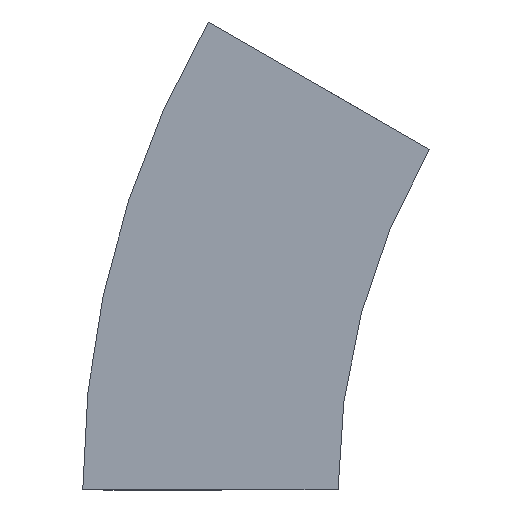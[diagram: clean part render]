
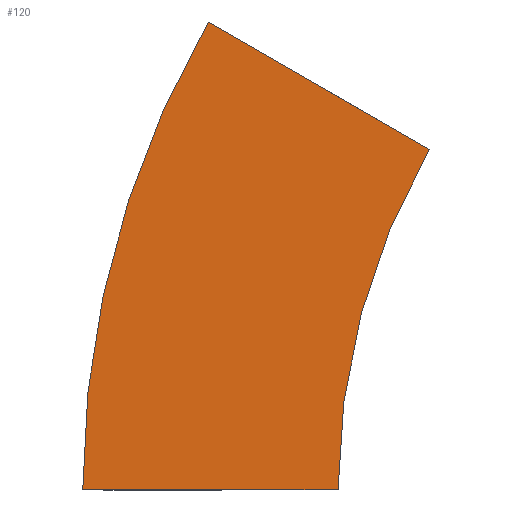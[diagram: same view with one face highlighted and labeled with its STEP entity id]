
A CAD part, left-side view. The second image highlights one B-rep face of the part: STEP entity #120.
In plain terms, the highlighted planar face has unit normal (-1, 0, 0) as drawn and (1, 0, 0) by its records, which use the part's own axes.
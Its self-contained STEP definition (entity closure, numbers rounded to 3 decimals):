
#14 = VERTEX_POINT ( 'NONE', #392 ) ;
#41 = CARTESIAN_POINT ( 'NONE',  ( 0., 0., 0. ) ) ;
#56 = EDGE_CURVE ( 'NONE', #545, #331, #175, .T. ) ;
#72 = DIRECTION ( 'NONE',  ( 1., 0., 0. ) ) ;
#96 = AXIS2_PLACEMENT_3D ( 'NONE', #493, #404, #407 ) ;
#116 = ORIENTED_EDGE ( 'NONE', *, *, #486, .F. ) ;
#117 = ORIENTED_EDGE ( 'NONE', *, *, #56, .T. ) ;
#120 = ADVANCED_FACE ( 'NONE', ( #278 ), #142, .T. ) ;
#142 = PLANE ( 'NONE',  #96 ) ;
#164 = ORIENTED_EDGE ( 'NONE', *, *, #326, .F. ) ;
#167 = DIRECTION ( 'NONE',  ( 0., 1., 0. ) ) ;
#175 = CIRCLE ( 'NONE', #336, 412.5 ) ;
#213 = CARTESIAN_POINT ( 'NONE',  ( 0., -40.192, 150. ) ) ;
#227 = VERTEX_POINT ( 'NONE', #213 ) ;
#253 = CARTESIAN_POINT ( 'NONE',  ( 0., -300., 0. ) ) ;
#255 = ORIENTED_EDGE ( 'NONE', *, *, #539, .T. ) ;
#261 = AXIS2_PLACEMENT_3D ( 'NONE', #253, #72, #300 ) ;
#278 = FACE_OUTER_BOUND ( 'NONE', #439, .T. ) ;
#298 = CARTESIAN_POINT ( 'NONE',  ( 0., -40.192, 150. ) ) ;
#300 = DIRECTION ( 'NONE',  ( 0., 1., 0. ) ) ;
#326 = EDGE_CURVE ( 'NONE', #14, #227, #479, .T. ) ;
#331 = VERTEX_POINT ( 'NONE', #467 ) ;
#336 = AXIS2_PLACEMENT_3D ( 'NONE', #350, #475, #358 ) ;
#343 = CARTESIAN_POINT ( 'NONE',  ( 0., 112.5, 0. ) ) ;
#350 = CARTESIAN_POINT ( 'NONE',  ( 0., -300., 0. ) ) ;
#357 = DIRECTION ( 'NONE',  ( 0., 0.866, 0.5 ) ) ;
#358 = DIRECTION ( 'NONE',  ( 0., 1., 0. ) ) ;
#392 = CARTESIAN_POINT ( 'NONE',  ( 0., 0., 0. ) ) ;
#404 = DIRECTION ( 'NONE',  ( 1., 0., 0. ) ) ;
#407 = DIRECTION ( 'NONE',  ( 0., 0., -1. ) ) ;
#408 = VECTOR ( 'NONE', #357, 1000. ) ;
#439 = EDGE_LOOP ( 'NONE', ( #117, #116, #164, #255 ) ) ;
#440 = LINE ( 'NONE', #298, #408 ) ;
#454 = VECTOR ( 'NONE', #167, 1000. ) ;
#467 = CARTESIAN_POINT ( 'NONE',  ( 0., 57.235, 206.25 ) ) ;
#475 = DIRECTION ( 'NONE',  ( 1., 0., 0. ) ) ;
#479 = CIRCLE ( 'NONE', #261, 300. ) ;
#486 = EDGE_CURVE ( 'NONE', #227, #331, #440, .T. ) ;
#493 = CARTESIAN_POINT ( 'NONE',  ( 0., 0., 0. ) ) ;
#539 = EDGE_CURVE ( 'NONE', #14, #545, #543, .T. ) ;
#543 = LINE ( 'NONE', #41, #454 ) ;
#545 = VERTEX_POINT ( 'NONE', #343 ) ;
